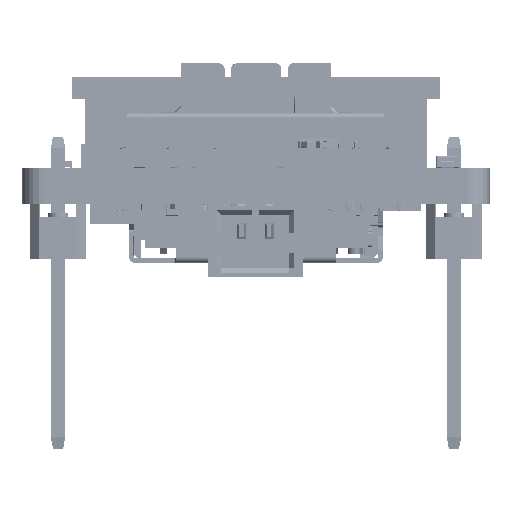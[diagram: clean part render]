
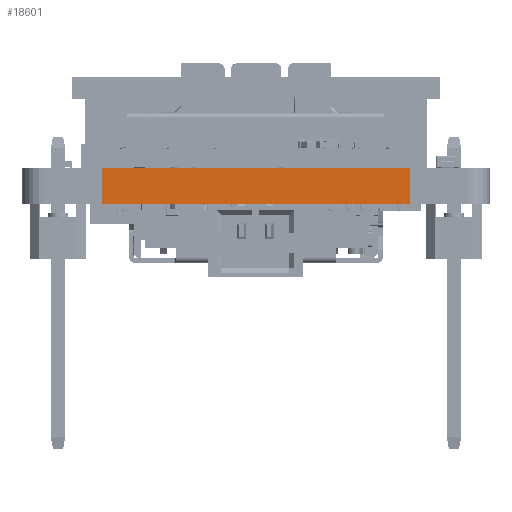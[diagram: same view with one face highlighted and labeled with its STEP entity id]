
A CAD part, front view. The second image highlights one B-rep face of the part: STEP entity #18601.
In plain terms, the highlighted planar face has unit normal (0, -1, 0).
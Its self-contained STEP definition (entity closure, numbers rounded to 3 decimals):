
#1688=DIRECTION('',(0.,0.,-1.));
#1689=VECTOR('',#1688,1.6);
#1690=CARTESIAN_POINT('',(17.4,5.2,1.6));
#1691=LINE('',#1690,#1689);
#1695=DIRECTION('',(-1.,0.,0.));
#1696=VECTOR('',#1695,13.8);
#1697=CARTESIAN_POINT('',(17.4,5.2,0.));
#1698=LINE('',#1697,#1696);
#1702=DIRECTION('',(0.,0.,-1.));
#1703=VECTOR('',#1702,1.6);
#1704=CARTESIAN_POINT('',(3.6,5.2,1.6));
#1705=LINE('',#1704,#1703);
#4649=DIRECTION('',(1.,0.,0.));
#4650=VECTOR('',#4649,13.8);
#4651=CARTESIAN_POINT('',(3.6,5.2,1.6));
#4652=LINE('',#4651,#4650);
#13862=CARTESIAN_POINT('',(3.6,5.2,1.6));
#13863=VERTEX_POINT('',#13862);
#13864=CARTESIAN_POINT('',(3.6,5.2,0.));
#13865=VERTEX_POINT('',#13864);
#13866=CARTESIAN_POINT('',(17.4,5.2,1.6));
#13867=VERTEX_POINT('',#13866);
#13868=CARTESIAN_POINT('',(17.4,5.2,0.));
#13869=VERTEX_POINT('',#13868);
#18587=CARTESIAN_POINT('',(3.6,5.2,0.));
#18588=DIRECTION('',(0.,1.,0.));
#18589=DIRECTION('',(1.,0.,0.));
#18590=AXIS2_PLACEMENT_3D('',#18587,#18588,#18589);
#18591=PLANE('',#18590);
#18593=ORIENTED_EDGE('',*,*,#18592,.F.);
#18595=ORIENTED_EDGE('',*,*,#18594,.T.);
#18596=ORIENTED_EDGE('',*,*,#18577,.T.);
#18598=ORIENTED_EDGE('',*,*,#18597,.T.);
#18599=EDGE_LOOP('',(#18593,#18595,#18596,#18598));
#18600=FACE_OUTER_BOUND('',#18599,.F.);
#18601=ADVANCED_FACE('',(#18600),#18591,.F.);
#18577=EDGE_CURVE('',#13867,#13869,#1691,.T.);
#18592=EDGE_CURVE('',#13863,#13865,#1705,.T.);
#18594=EDGE_CURVE('',#13863,#13867,#4652,.T.);
#18597=EDGE_CURVE('',#13869,#13865,#1698,.T.);
